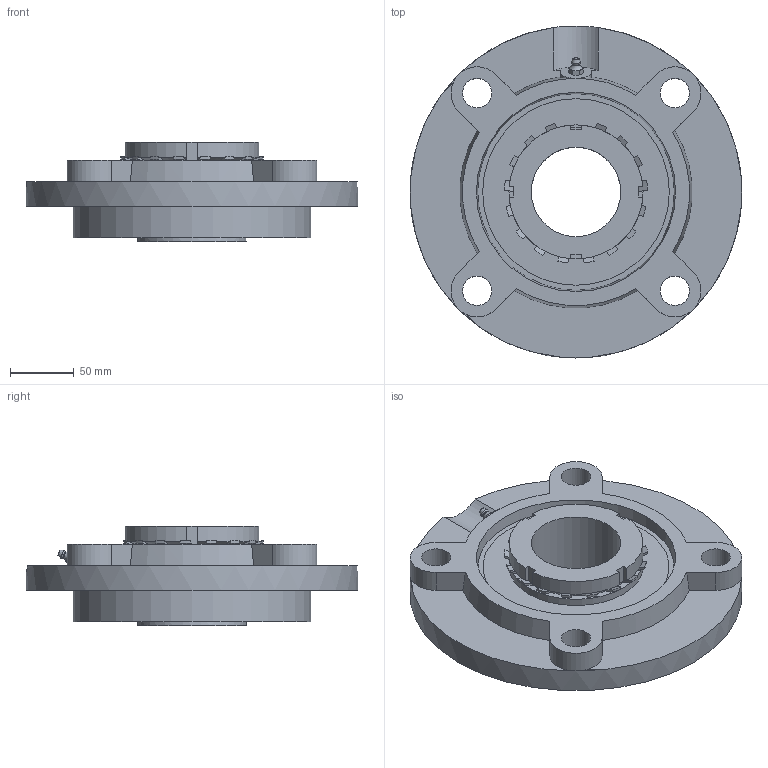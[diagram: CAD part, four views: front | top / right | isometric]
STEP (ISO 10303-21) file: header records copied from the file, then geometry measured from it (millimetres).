
FILE_DESCRIPTION((''),'2;1');
FILE_NAME('\\Ts-tgl068\j-cad-d-base\00.3DCADデータ作成フォルダ\02.フランジ形\UKFCX\UKFCX16+H.stp','2014-12-10T08:25:17',('btec_1106_2'),(''),'Autodesk Inventor 2012','Autodesk Inventor 2012','');
FILE_SCHEMA(('AUTOMOTIVE_DESIGN { 1 0 10303 214 1 1 1 1 }'));
Length unit declared in the file: millimetre
Products named in the file (4): UKFCX00+H; FCX16; UKX16+H; G1
Assembly tree (3 placements, depth 2):
  UKFCX00+H
    FCX16
    UKX16+H
    G1
Bounding box: 260 x 260 x 78 mm (x, y, z)
Volume: 1644280.5 mm3; surface area: 234553.8 mm2
Topology: 3 solids, 3 shells, 206 faces, 525 edges, 333 vertices
Faces by surface type: plane 90, cylinder 56, cone 54, sphere 4, torus 2
Full cylindrical faces by diameter (mm): 8.566 x1, 9.728 x1, 23 x4, 70 x1, 80 x1, 105 x2, 186 x1, 260 x1
Entity records: 6169 total; most frequent: CARTESIAN_POINT 1339, ORIENTED_EDGE 992, DIRECTION 988, EDGE_CURVE 496, AXIS2_PLACEMENT_3D 399, VERTEX_POINT 326, EDGE_LOOP 252, FACE_OUTER_BOUND 206
